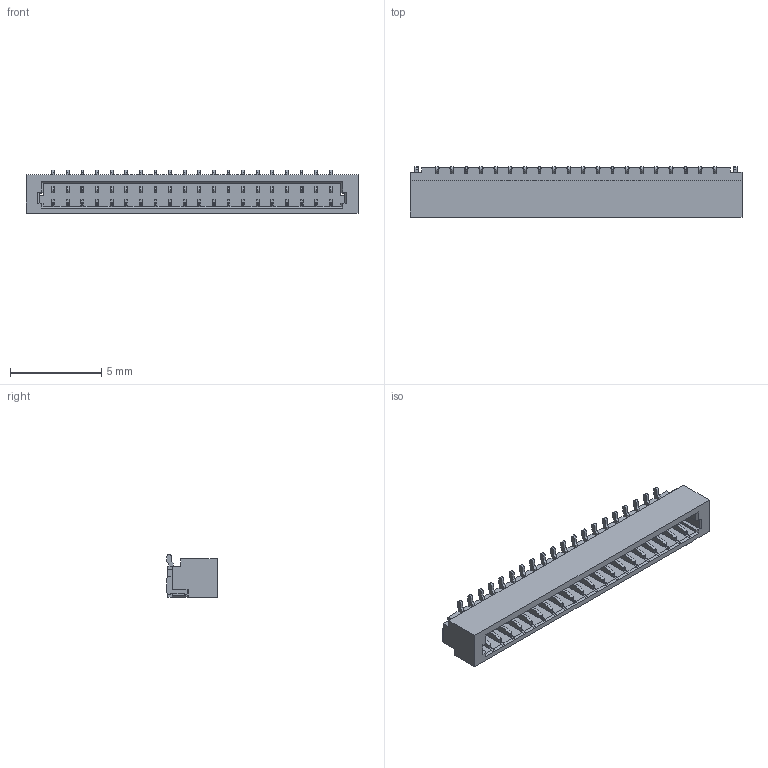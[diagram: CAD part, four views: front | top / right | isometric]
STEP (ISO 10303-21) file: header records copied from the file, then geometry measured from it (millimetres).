
FILE_DESCRIPTION((''),'2;1');
FILE_NAME('SCT0800WVS-20','2023-04-10T16:51:45',('Administrator'),(''),'CREO PARAMETRIC BY PTC INC, 2018050','CREO PARAMETRIC BY PTC INC, 2018050','');
FILE_SCHEMA(('CONFIG_CONTROL_DESIGN'));
Length unit declared in the file: millimetre
Products named in the file (1): SCT0800WVS-20
Bounding box: 18.18 x 2.75 x 2.37 mm (x, y, z)
Volume: 61.7 mm3; surface area: 378.3 mm2
Topology: 1 solids, 2 shells, 1471 faces, 4666 edges, 3092 vertices
Faces by surface type: plane 915, cylinder 556
Entity records: 51933 total; most frequent: CARTESIAN_POINT 9506, ORIENTED_EDGE 9332, DIRECTION 8556, EDGE_CURVE 4666, VECTOR 3550, LINE 3550, VERTEX_POINT 3092, AXIS2_PLACEMENT_3D 2503
